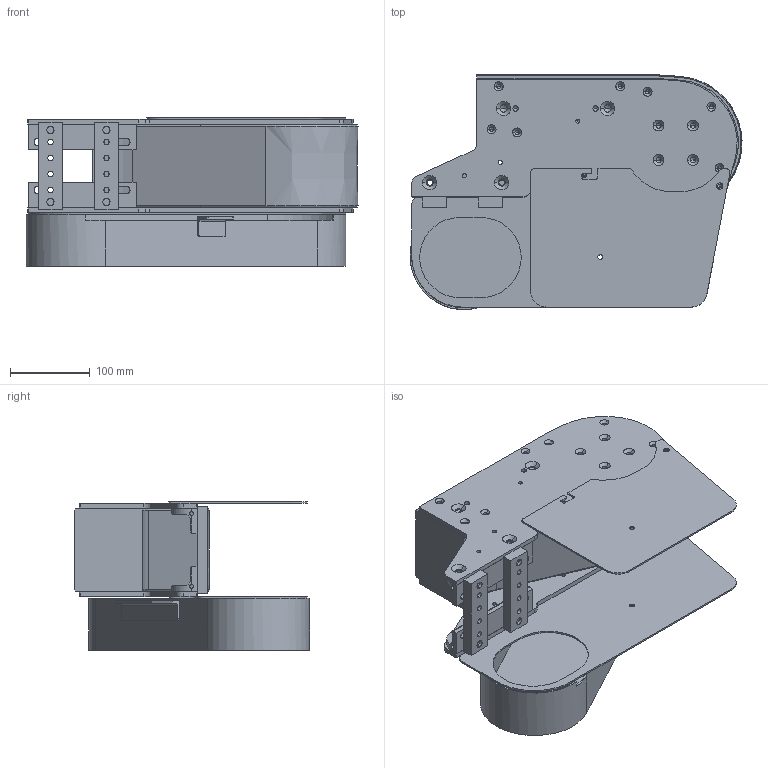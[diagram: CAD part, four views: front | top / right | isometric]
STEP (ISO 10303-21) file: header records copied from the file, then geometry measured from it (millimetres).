
FILE_DESCRIPTION (( 'STEP AP214' ), '1' );
FILE_NAME ('FCSD OL TL.step', '2017-04-07T11:06:33', ( '' ), ( '' ), 'SwSTEP 2.0', 'SolidWorks 2016', '' );
FILE_SCHEMA (( 'AUTOMOTIVE_DESIGN' ));
Length unit declared in the file: millimetre
Products named in the file (1): FCSD OL TL
Bounding box: 415.1 x 293.95 x 186 mm (x, y, z)
Volume: 5540197.1 mm3; surface area: 863842.4 mm2
Topology: 10 solids, 10 shells, 565 faces, 1546 edges, 962 vertices
Faces by surface type: cylinder 268, plane 152, cone 134, bspline 7, torus 4
Entity records: 20915 total; most frequent: CARTESIAN_POINT 4037, DIRECTION 3188, ORIENTED_EDGE 2948, EDGE_CURVE 1474, AXIS2_PLACEMENT_3D 1207, VERTEX_POINT 962, LINE 774, VECTOR 774
